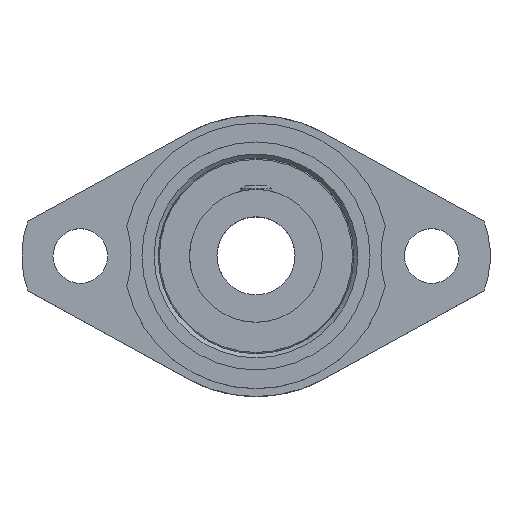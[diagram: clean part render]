
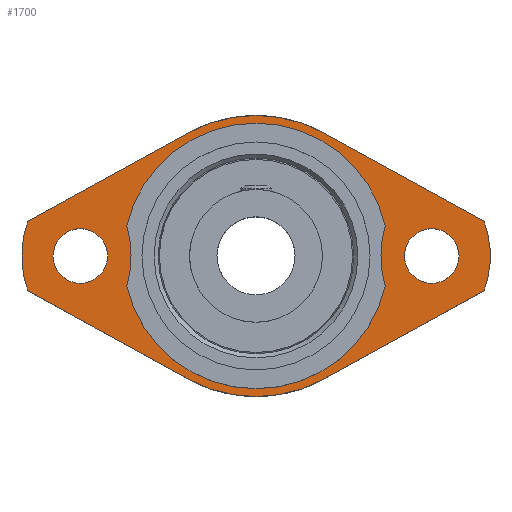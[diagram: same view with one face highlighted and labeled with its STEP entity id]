
A CAD part, top view. The second image highlights one B-rep face of the part: STEP entity #1700.
In plain terms, the highlighted planar face has unit normal (0, 0, 1).
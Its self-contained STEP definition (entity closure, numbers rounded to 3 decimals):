
#672=CARTESIAN_POINT('',(19.0,0.,0.));
#673=VERTEX_POINT('',#672);
#674=CARTESIAN_POINT('',(22.5,0.,0.0));
#675=DIRECTION('',(0.0,0.0,-1.0));
#676=DIRECTION('',(1.0,0.0,0.0));
#677=AXIS2_PLACEMENT_3D('',#674,#675,#676);
#678=CIRCLE('',#677,3.5);
#679=EDGE_CURVE('',#673,#673,#678,.T.);
#692=CARTESIAN_POINT('',(-26.0,0.,0.));
#693=VERTEX_POINT('',#692);
#694=CARTESIAN_POINT('',(-22.5,0.0,0.0));
#695=DIRECTION('',(0.0,0.0,-1.0));
#696=DIRECTION('',(1.0,0.0,0.0));
#697=AXIS2_PLACEMENT_3D('',#694,#695,#696);
#698=CIRCLE('',#697,3.5);
#699=EDGE_CURVE('',#693,#693,#698,.T.);
#1338=CARTESIAN_POINT('',(-16.55,-3.886,0.0));
#1339=VERTEX_POINT('',#1338);
#1346=CARTESIAN_POINT('',(16.55,-3.886,0.0));
#1347=VERTEX_POINT('',#1346);
#1348=CARTESIAN_POINT('',(0.0,0.0,0.));
#1349=DIRECTION('',(0.0,0.0,-1.0));
#1350=DIRECTION('',(0.974,0.229,0.0));
#1351=AXIS2_PLACEMENT_3D('',#1348,#1349,#1350);
#1352=CIRCLE('',#1351,17.);
#1353=EDGE_CURVE('',#1347,#1339,#1352,.T.);
#1378=CARTESIAN_POINT('',(-16.55,3.886,0.0));
#1379=VERTEX_POINT('',#1378);
#1386=CARTESIAN_POINT('',(-30.,0.,0.));
#1387=DIRECTION('',(0.0,0.0,1.0));
#1388=DIRECTION('',(0.961,-0.278,0.0));
#1389=AXIS2_PLACEMENT_3D('',#1386,#1387,#1388);
#1390=CIRCLE('',#1389,14.);
#1391=EDGE_CURVE('',#1339,#1379,#1390,.T.);
#1411=CARTESIAN_POINT('',(16.55,3.886,0.0));
#1412=VERTEX_POINT('',#1411);
#1419=CARTESIAN_POINT('',(0.0,0.0,0.));
#1420=DIRECTION('',(0.0,0.0,-1.0));
#1421=DIRECTION('',(-0.974,-0.229,0.0));
#1422=AXIS2_PLACEMENT_3D('',#1419,#1420,#1421);
#1423=CIRCLE('',#1422,17.);
#1424=EDGE_CURVE('',#1379,#1412,#1423,.T.);
#1443=CARTESIAN_POINT('',(30.,0.,0.));
#1444=DIRECTION('',(0.0,0.0,1.0));
#1445=DIRECTION('',(-0.961,0.278,0.0));
#1446=AXIS2_PLACEMENT_3D('',#1443,#1444,#1445);
#1447=CIRCLE('',#1446,14.);
#1448=EDGE_CURVE('',#1412,#1347,#1447,.T.);
#1474=CARTESIAN_POINT('',(29.196,-4.5,0.));
#1475=VERTEX_POINT('',#1474);
#1476=CARTESIAN_POINT('',(8.666,-15.777,0.));
#1477=VERTEX_POINT('',#1476);
#1478=CARTESIAN_POINT('',(29.196,-4.5,0.0));
#1479=DIRECTION('',(-0.876,-0.481,0.0));
#1480=VECTOR('',#1479,23.424);
#1481=LINE('',#1478,#1480);
#1482=EDGE_CURVE('',#1475,#1477,#1481,.T.);
#1508=CARTESIAN_POINT('',(-8.666,-15.777,0.));
#1509=VERTEX_POINT('',#1508);
#1510=CARTESIAN_POINT('',(0.0,0.0,0.0));
#1511=DIRECTION('',(0.0,0.0,-1.0));
#1512=DIRECTION('',(0.481,0.876,0.0));
#1513=AXIS2_PLACEMENT_3D('',#1510,#1511,#1512);
#1514=CIRCLE('',#1513,18.0);
#1515=EDGE_CURVE('',#1477,#1509,#1514,.T.);
#1534=CARTESIAN_POINT('',(-29.196,-4.5,0.));
#1535=VERTEX_POINT('',#1534);
#1536=CARTESIAN_POINT('',(-8.666,-15.777,0.0));
#1537=DIRECTION('',(-0.876,0.481,0.0));
#1538=VECTOR('',#1537,23.424);
#1539=LINE('',#1536,#1538);
#1540=EDGE_CURVE('',#1509,#1535,#1539,.T.);
#1558=CARTESIAN_POINT('',(-29.196,4.5,0.));
#1559=VERTEX_POINT('',#1558);
#1560=CARTESIAN_POINT('',(-17.,0.0,0.0));
#1561=DIRECTION('',(0.0,0.0,-1.0));
#1562=DIRECTION('',(0.938,-0.346,0.0));
#1563=AXIS2_PLACEMENT_3D('',#1560,#1561,#1562);
#1564=CIRCLE('',#1563,13.);
#1565=EDGE_CURVE('',#1535,#1559,#1564,.T.);
#1583=CARTESIAN_POINT('',(-8.666,15.777,0.));
#1584=VERTEX_POINT('',#1583);
#1585=CARTESIAN_POINT('',(-29.196,4.5,0.0));
#1586=DIRECTION('',(0.876,0.481,0.0));
#1587=VECTOR('',#1586,23.424);
#1588=LINE('',#1585,#1587);
#1589=EDGE_CURVE('',#1559,#1584,#1588,.T.);
#1610=CARTESIAN_POINT('',(8.666,15.777,0.));
#1611=VERTEX_POINT('',#1610);
#1612=CARTESIAN_POINT('',(0.0,0.0,0.0));
#1613=DIRECTION('',(0.0,0.0,-1.0));
#1614=DIRECTION('',(-0.481,-0.876,0.0));
#1615=AXIS2_PLACEMENT_3D('',#1612,#1613,#1614);
#1616=CIRCLE('',#1615,18.0);
#1617=EDGE_CURVE('',#1584,#1611,#1616,.T.);
#1636=CARTESIAN_POINT('',(29.196,4.5,0.));
#1637=VERTEX_POINT('',#1636);
#1638=CARTESIAN_POINT('',(8.666,15.777,0.0));
#1639=DIRECTION('',(0.876,-0.481,0.0));
#1640=VECTOR('',#1639,23.424);
#1641=LINE('',#1638,#1640);
#1642=EDGE_CURVE('',#1611,#1637,#1641,.T.);
#1660=CARTESIAN_POINT('',(17.,0.0,0.0));
#1661=DIRECTION('',(0.0,0.0,-1.0));
#1662=DIRECTION('',(-0.938,0.346,0.0));
#1663=AXIS2_PLACEMENT_3D('',#1660,#1661,#1662);
#1664=CIRCLE('',#1663,13.);
#1665=EDGE_CURVE('',#1637,#1475,#1664,.T.);
#1673=CARTESIAN_POINT('',(0.,0.,0.));
#1674=DIRECTION('',(0.0,0.0,1.0));
#1675=DIRECTION('',(1.0,0.0,0.0));
#1676=AXIS2_PLACEMENT_3D('',#1673,#1674,#1675);
#1677=PLANE('',#1676);
#1678=ORIENTED_EDGE('',*,*,#1482,.F.);
#1679=ORIENTED_EDGE('',*,*,#1665,.F.);
#1680=ORIENTED_EDGE('',*,*,#1642,.F.);
#1681=ORIENTED_EDGE('',*,*,#1617,.F.);
#1682=ORIENTED_EDGE('',*,*,#1589,.F.);
#1683=ORIENTED_EDGE('',*,*,#1565,.F.);
#1684=ORIENTED_EDGE('',*,*,#1540,.F.);
#1685=ORIENTED_EDGE('',*,*,#1515,.F.);
#1686=EDGE_LOOP('',(#1678,#1679,#1680,#1681,#1682,#1683,#1684,#1685));
#1687=FACE_OUTER_BOUND('',#1686,.T.);
#1688=ORIENTED_EDGE('',*,*,#679,.T.);
#1689=EDGE_LOOP('',(#1688));
#1690=FACE_BOUND('',#1689,.T.);
#1691=ORIENTED_EDGE('',*,*,#699,.T.);
#1692=EDGE_LOOP('',(#1691));
#1693=FACE_BOUND('',#1692,.T.);
#1694=ORIENTED_EDGE('',*,*,#1353,.T.);
#1695=ORIENTED_EDGE('',*,*,#1391,.T.);
#1696=ORIENTED_EDGE('',*,*,#1424,.T.);
#1697=ORIENTED_EDGE('',*,*,#1448,.T.);
#1698=EDGE_LOOP('',(#1694,#1695,#1696,#1697));
#1699=FACE_BOUND('',#1698,.T.);
#1700=ADVANCED_FACE('',(#1687,#1690,#1693,#1699),#1677,.T.);
